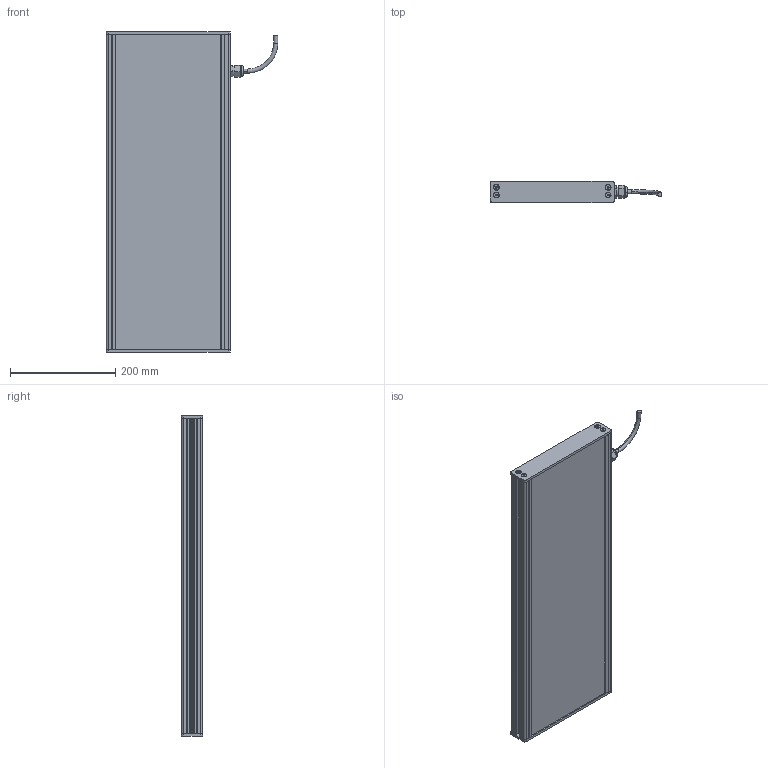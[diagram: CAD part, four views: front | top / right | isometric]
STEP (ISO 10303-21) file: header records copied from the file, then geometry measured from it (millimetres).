
FILE_DESCRIPTION (( 'STEP AP214' ), '1' );
FILE_NAME ('EFFI-BL-200-600T-1M12P.STEP', '2021-07-02T09:13:36', ( '' ), ( '' ), 'SwSTEP 2.0', 'SolidWorks 2021', '' );
FILE_SCHEMA (( 'AUTOMOTIVE_DESIGN' ));
Length unit declared in the file: millimetre
Products named in the file (7): 003776; bord fin modif_lg 436.5 mm; M12 power; profile modif_lg 99.5 mm; EFFI-BL-200-600T-1M12P; Pièce2^EFFI-BL-XXX-YYYT + M12P
Assembly tree (14 placements, depth 2):
  EFFI-BL-200-600T-1M12P
    bord fin modif_lg 436.5 mm  x2
    profile modif_lg 99.5 mm
    Pièce2^EFFI-BL-XXX-YYYT + M12P
    profile modif_lg 99.5 mm
    M12 power
    003776  x8
Bounding box: 326.45 x 40 x 610 mm (x, y, z)
Volume: 4960551.6 mm3; surface area: 520775.6 mm2
Topology: 13 solids, 16 shells, 568 faces, 1441 edges, 923 vertices
Faces by surface type: plane 327, bspline 125, cylinder 94, cone 18, torus 4
Entity records: 15235 total; most frequent: CARTESIAN_POINT 5059, ORIENTED_EDGE 2014, DIRECTION 1715, EDGE_CURVE 1009, LINE 755, VECTOR 755, VERTEX_POINT 666, AXIS2_PLACEMENT_3D 480
